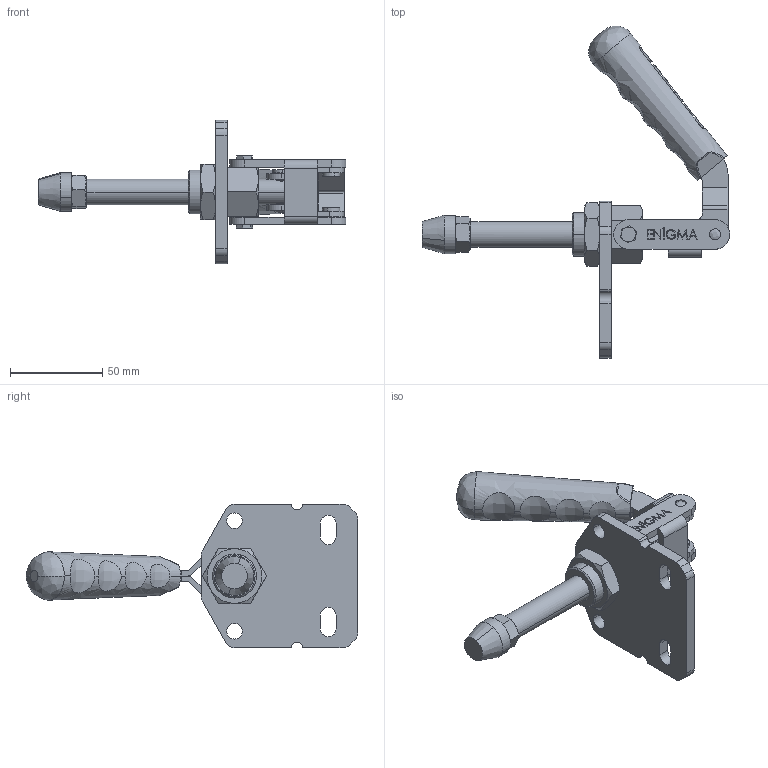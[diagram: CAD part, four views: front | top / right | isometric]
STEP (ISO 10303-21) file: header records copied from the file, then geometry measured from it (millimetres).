
FILE_DESCRIPTION (( 'STEP AP203' ), '1' );
FILE_NAME ('16014_D.STEP', '2022-11-26T19:15:01', ( '' ), ( '' ), 'SwSTEP 2.0', 'SolidWorks 2023', '' );
FILE_SCHEMA (( 'CONFIG_CONTROL_DESIGN' ));
Length unit declared in the file: millimetre
Products named in the file (14): 6x24_5_PER_X2_00c70130_X0_N_Varsay_X2_0131_X0_lan; Bask_X2_0131_X0_ M10_Varsay_X2_0131_X0_lan; 16014_Alt_X2_0131_X0_genG_X2_00f6_X0_vde_Varsay_X2_0131_X0_lan; C95_Yeni_Tutamak_Varsay_X2_0131_X0_lan; 6x9_5_DOLU_PER_X2_00c70130_X0_N_Varsay_X2_0131_X0_lan; Aynalama16014 & 16016_HAREKET_KOLU_Varsay_X2_0131_X0_lan; 16014 & 16016_Y_TABAN_Varsay_X2_0131_X0_lan; M24x1_5x8_Kontra_Somun_Varsay_X2_0131_X0_lan; M5x6x10_Kademeli_Civata_Varsay_X2_0131_X0_lan; 16014 & 16016_MAFSAL_Varsay_X2_0131_X0_lan; 16014_D; M10 Somun_Varsay_X2_0131_X0_lan; 16014 & 16016_HAREKET_KOLU_Varsay_X2_0131_X0_lan; 16014__X2_00d8_X0_14_Mil_Varsay_X2_0131_X0_lan
Assembly tree (15 placements, depth 2):
  16014_D
    16014 & 16016_Y_TABAN_Varsay_X2_0131_X0_lan
    16014 & 16016_HAREKET_KOLU_Varsay_X2_0131_X0_lan
    16014 & 16016_MAFSAL_Varsay_X2_0131_X0_lan
    16014_Alt_X2_0131_X0_genG_X2_00f6_X0_vde_Varsay_X2_0131_X0_lan
    6x24_5_PER_X2_00c70130_X0_N_Varsay_X2_0131_X0_lan
    6x9_5_DOLU_PER_X2_00c70130_X0_N_Varsay_X2_0131_X0_lan  x2
    C95_Yeni_Tutamak_Varsay_X2_0131_X0_lan
    M5x6x10_Kademeli_Civata_Varsay_X2_0131_X0_lan  x2
    16014__X2_00d8_X0_14_Mil_Varsay_X2_0131_X0_lan
    M24x1_5x8_Kontra_Somun_Varsay_X2_0131_X0_lan
    Aynalama16014 & 16016_HAREKET_KOLU_Varsay_X2_0131_X0_lan
    M10 Somun_Varsay_X2_0131_X0_lan
    Bask_X2_0131_X0_ M10_Varsay_X2_0131_X0_lan
Bounding box: 167 x 180.12 x 78 mm (x, y, z)
Volume: 132050.3 mm3; surface area: 66378.7 mm2
Topology: 15 solids, 15 shells, 597 faces, 1533 edges, 993 vertices
Faces by surface type: plane 319, cylinder 158, cone 73, bspline 47
Entity records: 21731 total; most frequent: CARTESIAN_POINT 6440, ORIENTED_EDGE 2922, DIRECTION 2767, EDGE_CURVE 1461, VERTEX_POINT 950, AXIS2_PLACEMENT_3D 930, LINE 907, VECTOR 907
